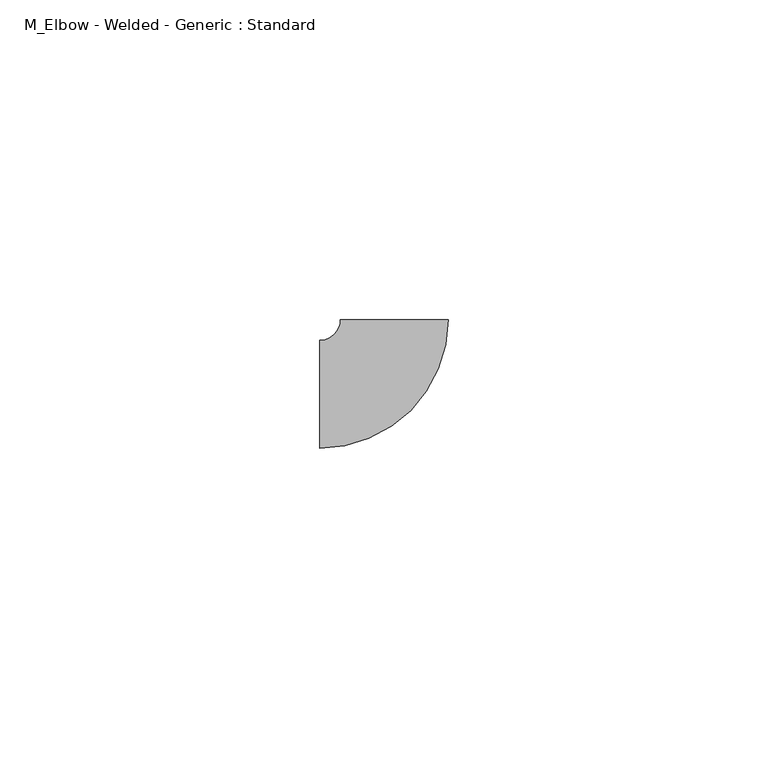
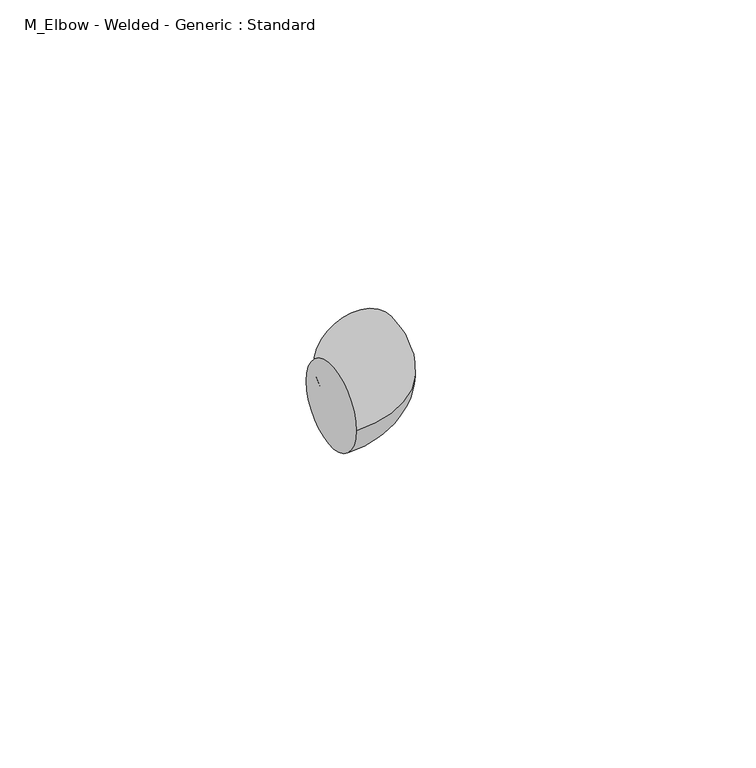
"""IFC4 building model written with IfcOpenShell, lengths in millimetres: pipe fitting geometry, M_Elbow - Welded - Generic : Standard."""

from ifc_helpers import new_model, si_unit, point, frame, origin, place, context, project, spatial, circle_curve, ellipse_curve, trimmed, source, transform, mapped, element, save
from ifc_brep_helpers import plane_surface, revolved_surface, advanced_brep


def m_elbow_welded_generic_standard_8e0ccdf9(model_context):
    return source(origin(), model_context, "Body", "AdvancedBrep", [
        advanced_brep(
        [(-11.6089844, -8.4089844, 0.0), (-11.6089844, 8.4089844, 0.0), (8.4089844, 11.6089844, 0.0), (-8.4089844, 11.6089844, 0.0)],
        [
            (0, 1, circle_curve(frame((-11.6089844, 0.0, 0.0), z_axis=(-1.0, 0.0, 0.0), x_axis=(0.0, 1.0, 0.0)), 8.4089844)),
            (1, 0, circle_curve(frame((-11.6089844, 0.0, 0.0), z_axis=(-1.0, 0.0, 0.0), x_axis=(0.0, 1.0, 0.0)), 8.4089844)),
            (2, 3, circle_curve(frame((0.0, 11.6089844, 0.0), z_axis=(0.0, 1.0, 0.0), x_axis=(-1.0, 0.0, 0.0)), 8.4089844)),
            (3, 2, circle_curve(frame((0.0, 11.6089844, 0.0), z_axis=(0.0, 1.0, 0.0), x_axis=(-1.0, 0.0, 0.0)), 8.4089844)),
            (3, 1, circle_curve(frame((-11.6089844, 11.6089844, 0.0), z_axis=(0.0, 0.0, -1.0), x_axis=(0.0, -1.0, 0.0)), 3.2)),
            (0, 2, circle_curve(frame((-11.6089844, 11.6089844, 0.0), z_axis=(0.0, 0.0, 1.0), x_axis=(0.0, -1.0, 0.0)), 20.0179688)),
        ],
        [
            plane_surface(frame((-11.6089844, 0.0, 0.0), z_axis=(-1.0, 0.0, 0.0), x_axis=(0.0, 0.0, 1.0))),
            plane_surface(frame((0.0, 11.6089844, 0.0), z_axis=(0.0, 1.0, 0.0), x_axis=(0.0, 0.0, 1.0))),
            revolved_surface(trimmed(ellipse_curve(frame((-11.6089844, 0.0, 0.0), z_axis=(-1.0, 0.0, 0.0), x_axis=(0.0, 1.0, 0.0)), 8.4089844, 8.4089844), [point((-11.6089844, -8.4089844, 0.0))], [point((-11.6089844, 8.4089844, 0.0))], True, "CARTESIAN"), (-11.6089844, 11.6089844, 0.0), (0.0, 0.0, 1.0)),
            revolved_surface(trimmed(ellipse_curve(frame((-11.6089844, 0.0, 0.0), z_axis=(-1.0, 0.0, 0.0), x_axis=(0.0, 1.0, 0.0)), 8.4089844, 8.4089844), [point((-11.6089844, 8.4089844, 0.0))], [point((-11.6089844, -8.4089844, 0.0))], True, "CARTESIAN"), (-11.6089844, 11.6089844, 0.0), (0.0, 0.0, 1.0)),
        ],
        [
            (0, [[1, 2]]),
            (1, [[3, 4]]),
            (2, [[5, -1, 6, -4]]),
            (3, [[-6, -2, -5, -3]]),
        ],
    ),
    ])


if __name__ == "__main__":
    model = new_model("IFC4")
    model_context = context("Model", 3, world=origin())
    ifc_project = project(units=[si_unit("LENGTHUNIT", "METRE", prefix="MILLI")], contexts=[model_context])
    site = spatial("IfcSite", under=ifc_project)
    building = spatial("IfcBuilding", under=site)
    placement = place(None, origin())
    m_elbow_welded_generic_standard_shape = m_elbow_welded_generic_standard_8e0ccdf9(model_context)
    element("IfcPipeFitting", 1, ObjectType="M_Elbow - Welded - Generic : Standard", at=placement, inside=building, context=model_context, shape_type="MappedRepresentation", body=[
        mapped(m_elbow_welded_generic_standard_shape, transform((0.0, 0.0, 0.0), x_axis=(1.0, 0.0, 0.0), y_axis=(0.0, 1.0, 0.0), z_axis=(0.0, 0.0, 1.0))),
    ])
    save(model, "model.ifc")
